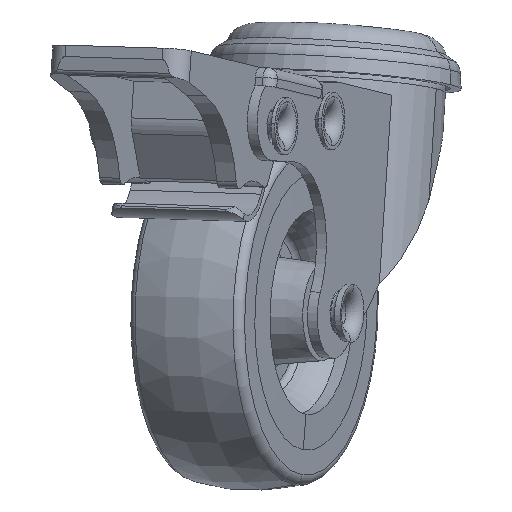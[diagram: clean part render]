
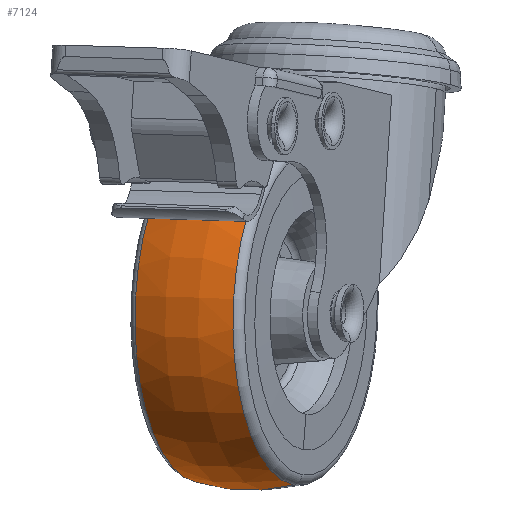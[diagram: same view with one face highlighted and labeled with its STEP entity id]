
A CAD part, front view. The second image highlights one B-rep face of the part: STEP entity #7124.
In plain terms, the highlighted toroidal (fillet/blend) face has major radius 5 mm and minor radius 30 mm.
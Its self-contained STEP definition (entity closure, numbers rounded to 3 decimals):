
#6690 = EDGE_CURVE ( 'NONE', #6709, #6705, #14426, .T. ) ;
#6696 = VERTEX_POINT ( 'NONE', #14476 ) ;
#6705 = VERTEX_POINT ( 'NONE', #14477 ) ;
#6708 = VERTEX_POINT ( 'NONE', #14469 ) ;
#6709 = VERTEX_POINT ( 'NONE', #14463 ) ;
#6792 = EDGE_CURVE ( 'NONE', #6708, #6696, #14519, .T. ) ;
#7022 = EDGE_CURVE ( 'NONE', #6708, #6709, #14740, .T. ) ;
#7032 = EDGE_CURVE ( 'NONE', #6705, #6696, #14776, .T. ) ;
#7120 = ORIENTED_EDGE ( 'NONE', *, *, #7022, .F. ) ;
#7124 = ADVANCED_FACE ( 'NONE', ( #14813 ), #14836, .T. ) ;
#7132 = ORIENTED_EDGE ( 'NONE', *, *, #6792, .T. ) ;
#7139 = ORIENTED_EDGE ( 'NONE', *, *, #7032, .F. ) ;
#7150 = ORIENTED_EDGE ( 'NONE', *, *, #6690, .F. ) ;
#7152 = EDGE_LOOP ( 'NONE', ( #7150, #7120, #7132, #7139 ) ) ;
#14419 = DIRECTION ( 'NONE',  ( -0.915, 0.403, 0. ) ) ;
#14420 = DIRECTION ( 'NONE',  ( 0.402, 0.913, -0.073 ) ) ;
#14421 = AXIS2_PLACEMENT_3D ( 'NONE', #14445, #14420, #14419 ) ;
#14426 = CIRCLE ( 'NONE', #14421, 30. ) ;
#14445 = CARTESIAN_POINT ( 'NONE',  ( -87.393, -52.962, 1.873 ) ) ;
#14463 = CARTESIAN_POINT ( 'NONE',  ( -82.229, -57.562, -27.319 ) ) ;
#14469 = CARTESIAN_POINT ( 'NONE',  ( -79.55, -54.923, 20.669 ) ) ;
#14476 = CARTESIAN_POINT ( 'NONE',  ( -93.113, -48.91, 21.095 ) ) ;
#14477 = CARTESIAN_POINT ( 'NONE',  ( -95.791, -51.548, -26.893 ) ) ;
#14519 = CIRCLE ( 'NONE', #14560, 30. ) ;
#14556 = DIRECTION ( 'NONE',  ( 0.915, -0.403, 0. ) ) ;
#14557 = DIRECTION ( 'NONE',  ( -0.402, -0.913, 0.073 ) ) ;
#14560 = AXIS2_PLACEMENT_3D ( 'NONE', #14563, #14557, #14556 ) ;
#14563 = CARTESIAN_POINT ( 'NONE',  ( -87.949, -53.51, -8.097 ) ) ;
#14740 = CIRCLE ( 'NONE', #14775, 24.068 ) ;
#14763 = AXIS2_PLACEMENT_3D ( 'NONE', #14830, #14829, #14828 ) ;
#14767 = DIRECTION ( 'NONE',  ( -0.056, -0.055, -0.997 ) ) ;
#14768 = DIRECTION ( 'NONE',  ( 0.914, -0.405, -0.029 ) ) ;
#14770 = CARTESIAN_POINT ( 'NONE',  ( -80.89, -56.242, -3.325 ) ) ;
#14775 = AXIS2_PLACEMENT_3D ( 'NONE', #14770, #14768, #14767 ) ;
#14776 = CIRCLE ( 'NONE', #14763, 24.068 ) ;
#14813 = FACE_OUTER_BOUND ( 'NONE', #7152, .T. ) ;
#14828 = DIRECTION ( 'NONE',  ( 0.056, 0.055, 0.997 ) ) ;
#14829 = DIRECTION ( 'NONE',  ( -0.914, 0.405, 0.029 ) ) ;
#14830 = CARTESIAN_POINT ( 'NONE',  ( -94.452, -50.229, -2.899 ) ) ;
#14831 = AXIS2_PLACEMENT_3D ( 'NONE', #14834, #14837, #14858 ) ;
#14834 = CARTESIAN_POINT ( 'NONE',  ( -87.671, -53.236, -3.112 ) ) ;
#14836 = TOROIDAL_SURFACE ( 'NONE', #14831, -5., 30. ) ;
#14837 = DIRECTION ( 'NONE',  ( -0.914, 0.405, 0.029 ) ) ;
#14858 = DIRECTION ( 'NONE',  ( 0.056, 0.055, 0.997 ) ) ;
